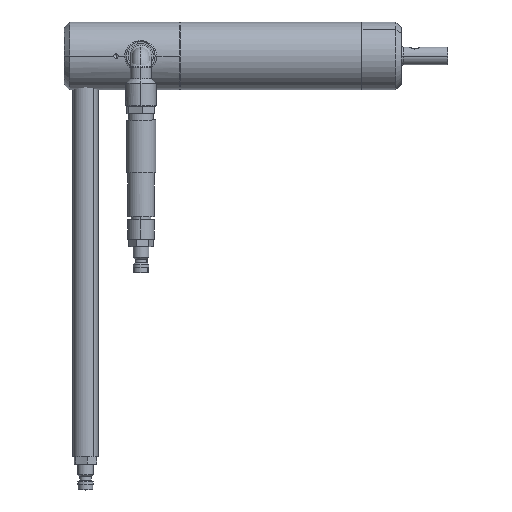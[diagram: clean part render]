
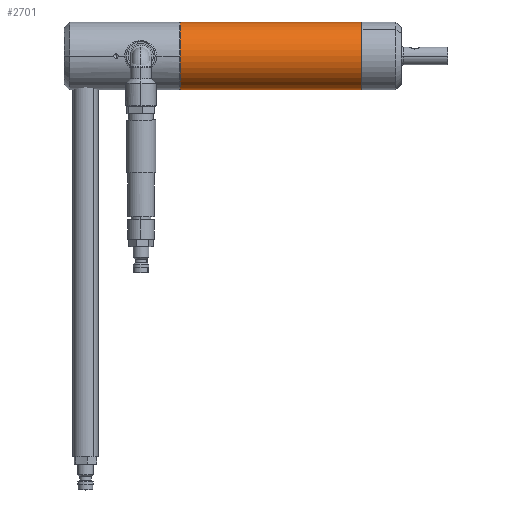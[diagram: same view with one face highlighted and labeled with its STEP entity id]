
A CAD part, left-side view. The second image highlights one B-rep face of the part: STEP entity #2701.
In plain terms, the highlighted cylindrical face has radius 19 mm (diameter 38 mm), a partial arc.
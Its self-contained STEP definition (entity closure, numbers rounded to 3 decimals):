
#98 = CIRCLE ( 'NONE', #2839, 19. ) ;
#601 = VERTEX_POINT ( 'NONE', #5974 ) ;
#945 = CYLINDRICAL_SURFACE ( 'NONE', #5416, 19. ) ;
#974 = EDGE_CURVE ( 'NONE', #5345, #6852, #3574, .T. ) ;
#1261 = EDGE_CURVE ( 'NONE', #6852, #601, #5403, .T. ) ;
#1445 = AXIS2_PLACEMENT_3D ( 'NONE', #6753, #3025, #7382 ) ;
#1711 = VECTOR ( 'NONE', #7003, 1000. ) ;
#1954 = EDGE_CURVE ( 'NONE', #5345, #4910, #7313, .T. ) ;
#2040 = CARTESIAN_POINT ( 'NONE',  ( 0., 127.5, 19. ) ) ;
#2200 = ORIENTED_EDGE ( 'NONE', *, *, #1954, .T. ) ;
#2519 = DIRECTION ( 'NONE',  ( 0., -1., 0. ) ) ;
#2701 = ADVANCED_FACE ( 'NONE', ( #4444 ), #945, .T. ) ;
#2737 = CARTESIAN_POINT ( 'NONE',  ( 0., 112., -19. ) ) ;
#2814 = CARTESIAN_POINT ( 'NONE',  ( 0., 112., 19. ) ) ;
#2839 = AXIS2_PLACEMENT_3D ( 'NONE', #3409, #7761, #4043 ) ;
#3007 = DIRECTION ( 'NONE',  ( 0., 0., -1. ) ) ;
#3025 = DIRECTION ( 'NONE',  ( 0., 1., 0. ) ) ;
#3409 = CARTESIAN_POINT ( 'NONE',  ( 0., 11., 0. ) ) ;
#3574 = CIRCLE ( 'NONE', #1445, 19. ) ;
#3608 = CARTESIAN_POINT ( 'NONE',  ( 0., 127.5, 0. ) ) ;
#4043 = DIRECTION ( 'NONE',  ( 0., 0., -1. ) ) ;
#4167 = EDGE_CURVE ( 'NONE', #601, #4910, #98, .T. ) ;
#4444 = FACE_OUTER_BOUND ( 'NONE', #5634, .T. ) ;
#4910 = VERTEX_POINT ( 'NONE', #7306 ) ;
#5345 = VERTEX_POINT ( 'NONE', #2737 ) ;
#5403 = LINE ( 'NONE', #2040, #1711 ) ;
#5416 = AXIS2_PLACEMENT_3D ( 'NONE', #3608, #6080, #3007 ) ;
#5634 = EDGE_LOOP ( 'NONE', ( #6715, #7499, #2200, #7281 ) ) ;
#5642 = VECTOR ( 'NONE', #2519, 1000. ) ;
#5974 = CARTESIAN_POINT ( 'NONE',  ( 0., 11., 19. ) ) ;
#6080 = DIRECTION ( 'NONE',  ( 0., -1., 0. ) ) ;
#6715 = ORIENTED_EDGE ( 'NONE', *, *, #1261, .F. ) ;
#6753 = CARTESIAN_POINT ( 'NONE',  ( 0., 112., 0. ) ) ;
#6852 = VERTEX_POINT ( 'NONE', #2814 ) ;
#6856 = CARTESIAN_POINT ( 'NONE',  ( 0., 127.5, -19. ) ) ;
#7003 = DIRECTION ( 'NONE',  ( 0., -1., 0. ) ) ;
#7281 = ORIENTED_EDGE ( 'NONE', *, *, #4167, .F. ) ;
#7306 = CARTESIAN_POINT ( 'NONE',  ( 0., 11., -19. ) ) ;
#7313 = LINE ( 'NONE', #6856, #5642 ) ;
#7382 = DIRECTION ( 'NONE',  ( 0., 0., 1. ) ) ;
#7499 = ORIENTED_EDGE ( 'NONE', *, *, #974, .F. ) ;
#7761 = DIRECTION ( 'NONE',  ( 0., -1., 0. ) ) ;
